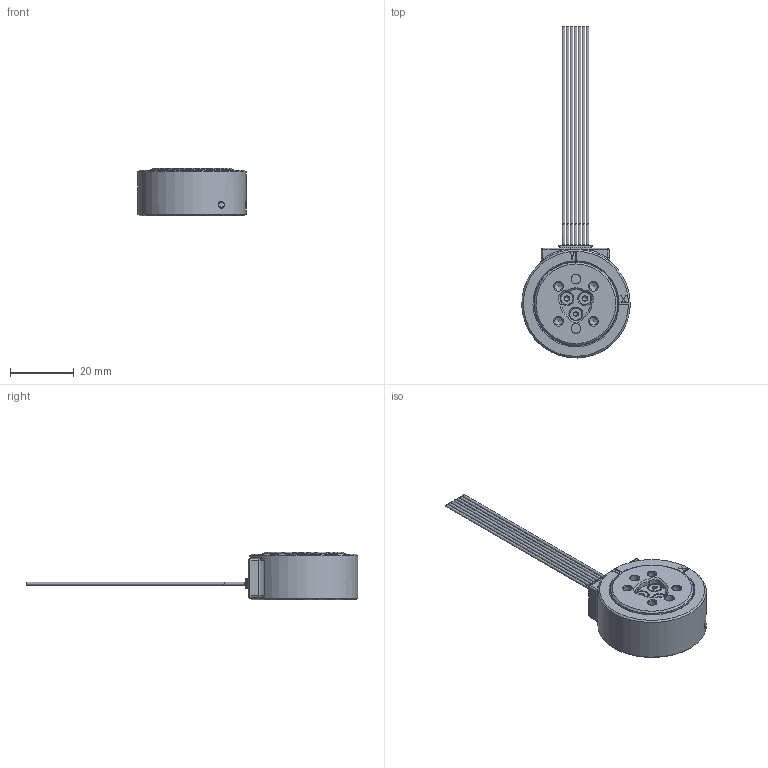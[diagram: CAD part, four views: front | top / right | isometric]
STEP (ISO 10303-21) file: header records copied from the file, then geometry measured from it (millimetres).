
FILE_DESCRIPTION (( 'STEP AP214' ), '1' );
FILE_NAME ('TactX GenA Series with wire end 3D File .STEP', '2026-04-27T09:57:20', ( '' ), ( '' ), 'SwSTEP 2.0', 'SolidWorks 2022', '' );
FILE_SCHEMA (( 'AUTOMOTIVE_DESIGN' ));
Length unit declared in the file: millimetre
Products named in the file (20): ISO 14581 M2x8x8-S-A2-70-NT_ISO 14581 M2x8x8-S-A2-70-NT; DIN 912 M2.5 x 6 --- 6S-A2-70-NT_DIN 912 M2.5 x 6 --- 6S-A2-70-NT; 91800A050_18-8 Stainless Steel Cheese Head Slotted Screw_91800A050; ISO 8734 - 1 x 3 - C1-m6-S-HR_ISO 8734 - 1 x 3 - C1-m6-S-HR; PAR-00006_PAR-00006; MIN-P021_SE Cut 2; MIN-P021_SE CUT 1; 2181120704_7P; FP-53261-0771-MFG_CMP-04776-000278-1; IPS-4056T-01Y900-Footprint-1_CMP-002-00146-1; MiniOne_Gen_B_TOP_-_SideConn-V2_BOARD; TactX GenA Series with wire end 3D File ; 2181120704_01_7P; MIN-P022_Thinner One side; MiniOne_Gen_B_TOP_-_SideConn-V2
Assembly tree (19 placements, depth 3):
  MIN-P021_SE CUT 1
  IPS-4056T-01Y900-Footprint-1_CMP-002-00146-1
  TactX GenA Series with wire end 3D File 
    MIN-P021_SE Cut 2
    MIN-P022_Thinner One side
    MiniOne_Gen_B_TOP_-_SideConn-V2
      MiniOne_Gen_B_TOP_-_SideConn-V2_BOARD
      FP-53261-0771-MFG_CMP-04776-000278-1
    91800A050_18-8 Stainless Steel Cheese Head Slotted Screw_91800A050
    91800A050_18-8 Stainless Steel Cheese Head Slotted Screw_91800A050
    91800A050_18-8 Stainless Steel Cheese Head Slotted Screw_91800A050
    DIN 912 M2.5 x 6 --- 6S-A2-70-NT_DIN 912 M2.5 x 6 --- 6S-A2-70-NT
    DIN 912 M2.5 x 6 --- 6S-A2-70-NT_DIN 912 M2.5 x 6 --- 6S-A2-70-NT
    DIN 912 M2.5 x 6 --- 6S-A2-70-NT_DIN 912 M2.5 x 6 --- 6S-A2-70-NT
    PAR-00006_PAR-00006
    PAR-00006_PAR-00006
    ISO 14581 M2x8x8-S-A2-70-NT_ISO 14581 M2x8x8-S-A2-70-NT  x3
    ISO 8734 - 1 x 3 - C1-m6-S-HR_ISO 8734 - 1 x 3 - C1-m6-S-HR
    2181120704_7P
      2181120704_01_7P
Bounding box: 34.01 x 104.21 x 15 mm (x, y, z)
Volume: 8650.1 mm3; surface area: 9462.1 mm2
Topology: 46 solids, 46 shells, 1940 faces, 4679 edges, 2810 vertices
Faces by surface type: plane 891, cylinder 571, cone 203, sphere 129, bspline 105, torus 41
Full cylindrical faces by diameter (mm): 0.8 x3, 0.864 x14, 1 x1, 1.25 x2, 1.5 x4, 1.6 x2, 2 x51, 2.2 x4, 2.4 x3, 2.5 x10, 3 x4, 3.8 x3, 4.5 x3, 5.2 x3, 23.33 x1, 25.67 x1, 26 x2, 26.5 x1, 34 x1
Entity records: 56928 total; most frequent: CARTESIAN_POINT 15642, ORIENTED_EDGE 8182, DIRECTION 7972, EDGE_CURVE 4091, AXIS2_PLACEMENT_3D 2671, LINE 2630, VECTOR 2630, VERTEX_POINT 2592
